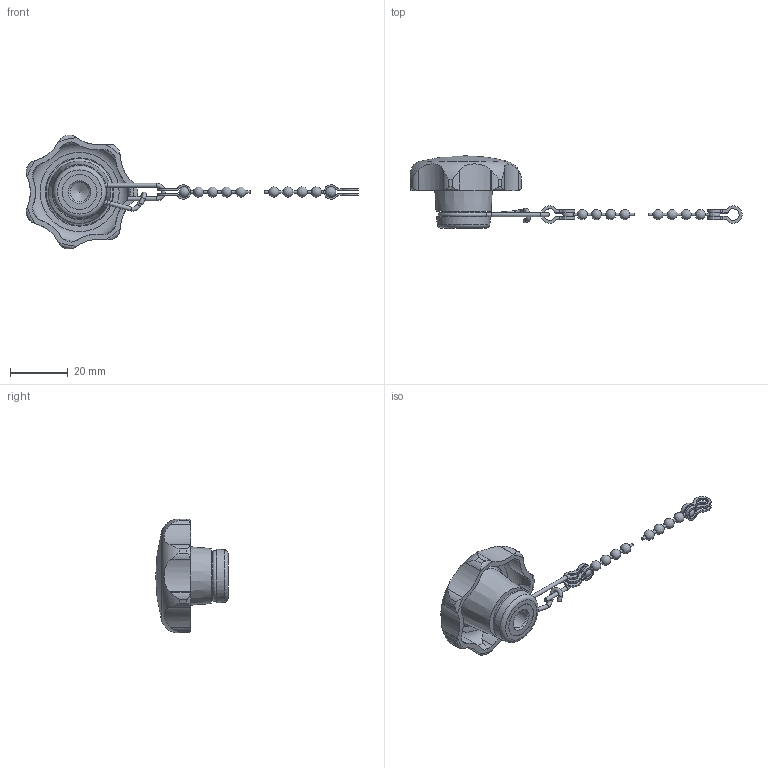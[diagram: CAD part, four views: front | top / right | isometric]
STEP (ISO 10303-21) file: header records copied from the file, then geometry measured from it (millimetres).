
FILE_DESCRIPTION( ( 'STEP AP203' ), '1' );
FILE_NAME( 'C:/Temp/Ganter_Step_05_03_2020/data/2_2/gn_6336_13/gn_6336_13_1/Star knob GN 6336.13-40-M8-K.stp', '2020-03-05T12:10:53', ( 'License CC BY-ND 4.0' ), ( 'CADENAS' ), ' ', 'PARTsolutions', ' ' );
FILE_SCHEMA( ( 'CONFIG_CONTROL_DESIGN' ) );
Length unit declared in the file: millimetre
Products named in the file (3): Star knob GN 6336.13-40-M8-K; _Star knob GN 6336.13-40-M8-K 2; _Star knob GN 111.5-200-14 k1
Assembly tree (2 placements, depth 2):
  Star knob GN 6336.13-40-M8-K
    _Star knob GN 6336.13-40-M8-K 2
    _Star knob GN 111.5-200-14 k1
Bounding box: 114.51 x 25 x 39.31 mm (x, y, z)
Volume: 10970.7 mm3; surface area: 6724.8 mm2
Topology: 2 solids, 2 shells, 186 faces, 534 edges, 346 vertices
Faces by surface type: cylinder 116, plane 29, torus 18, cone 12, sphere 11
Full cylindrical faces by diameter (mm): 0.9 x10, 1.4 x5, 6.647 x1, 12.05 x1, 14.7 x1
Entity records: 6636 total; most frequent: CARTESIAN_POINT 2000, DIRECTION 932, ORIENTED_EDGE 932, EDGE_CURVE 466, AXIS2_PLACEMENT_3D 392, VERTEX_POINT 332, EDGE_LOOP 238, FACE_OUTER_BOUND 222
